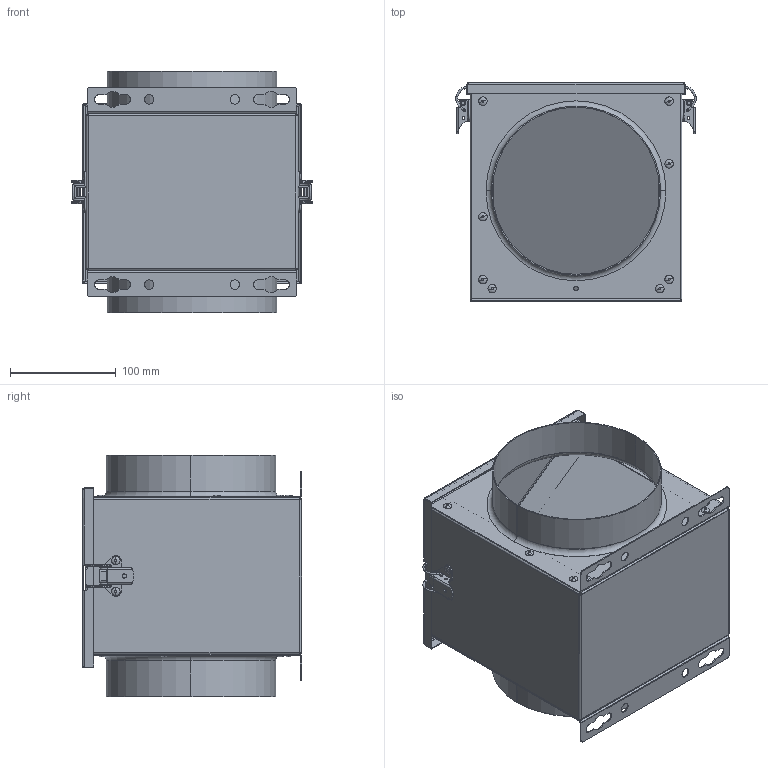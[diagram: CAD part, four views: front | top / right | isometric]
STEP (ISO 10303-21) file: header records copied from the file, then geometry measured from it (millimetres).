
FILE_DESCRIPTION (( 'STEP AP203' ), '1' );
FILE_NAME ('112831-01_FV160_step.step', '2020-08-26T10:48:01', ( '' ), ( '' ), 'SwSTEP 2.0', 'SolidWorks 2017', '' );
FILE_SCHEMA (( 'CONFIG_CONTROL_DESIGN' ));
Length unit declared in the file: millimetre
Products named in the file (1): 112831-01_FV160_step
Bounding box: 227.59 x 207 x 228 mm (x, y, z)
Surface area: 544923.3 mm2 (no closed solid volume)
Topology: 0 solids, 44 shells, 555 faces, 1611 edges, 1063 vertices
Faces by surface type: cylinder 260, plane 165, torus 74, bspline 56
Entity records: 19869 total; most frequent: CARTESIAN_POINT 4990, DIRECTION 3351, ORIENTED_EDGE 2702, EDGE_CURVE 1611, AXIS2_PLACEMENT_3D 1306, VERTEX_POINT 1063, CIRCLE 806, LINE 739
